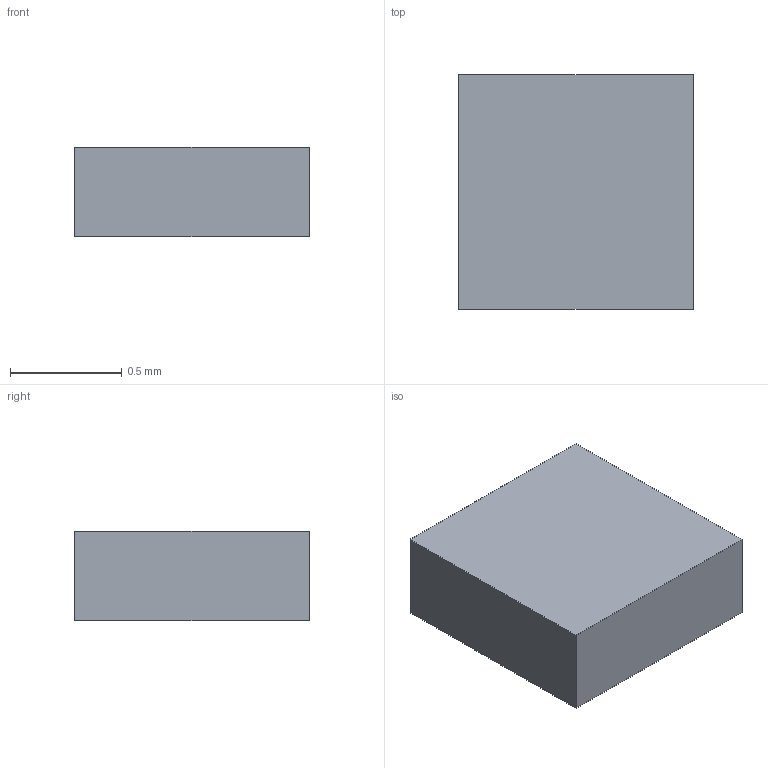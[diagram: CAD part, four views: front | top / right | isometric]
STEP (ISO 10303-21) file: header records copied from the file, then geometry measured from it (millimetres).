
FILE_DESCRIPTION(('FreeCAD Model'),'2;1');
FILE_NAME('C:/PDMVault/ECAD_LIBRARY/STEP-models/TI_DQN.stp', '2014-03-20T13:50:17',('FreeCAD'),('FreeCAD'), 'Open CASCADE STEP processor 6.3','FreeCAD','Unknown');
FILE_SCHEMA(('AUTOMOTIVE_DESIGN_CC2 { 1 2 10303 214 -1 1 5 4 }'));
Length unit declared in the file: millimetre
Products named in the file (1): TI_DQN
Bounding box: 1.05 x 1.05 x 0.4 mm (x, y, z)
Volume: 0.4 mm3; surface area: 3.9 mm2
Topology: 1 solids, 1 shells, 6 faces, 12 edges, 8 vertices
Faces by surface type: plane 6
Entity records: 333 total; most frequent: CARTESIAN_POINT 51, DIRECTION 50, LINE 36, VECTOR 36, ORIENTED_EDGE 24, PCURVE 24, DEFINITIONAL_REPRESENTATION 24, EDGE_CURVE 12
